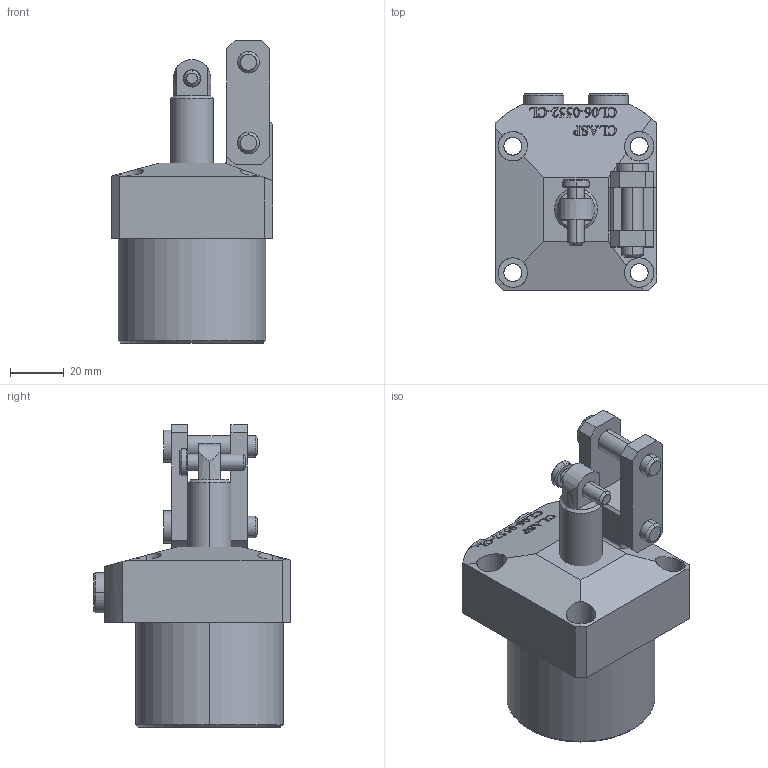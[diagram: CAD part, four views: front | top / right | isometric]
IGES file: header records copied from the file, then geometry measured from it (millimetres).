
Start section: SolidWorks IGES file using analytic representation for surfaces
Global section: file name: D:\karuppas\Clasp\3D model\Link clamp cylinder\CL06-0552-CL\CL06-0552 CL.IGS; native system: SolidWorks 2017; preprocessor: SolidWorks 2017; author: pc; date: 220717.215609; units: millimetre
Bounding box: 60 x 73 x 112.5 mm (x, y, z)
Surface area: 37328.8 mm2 (no closed solid volume)
Topology: 0 solids, 0 shells, 488 faces, 7916 edges, 7912 vertices
Faces by surface type: bspline 385, revolution 103
